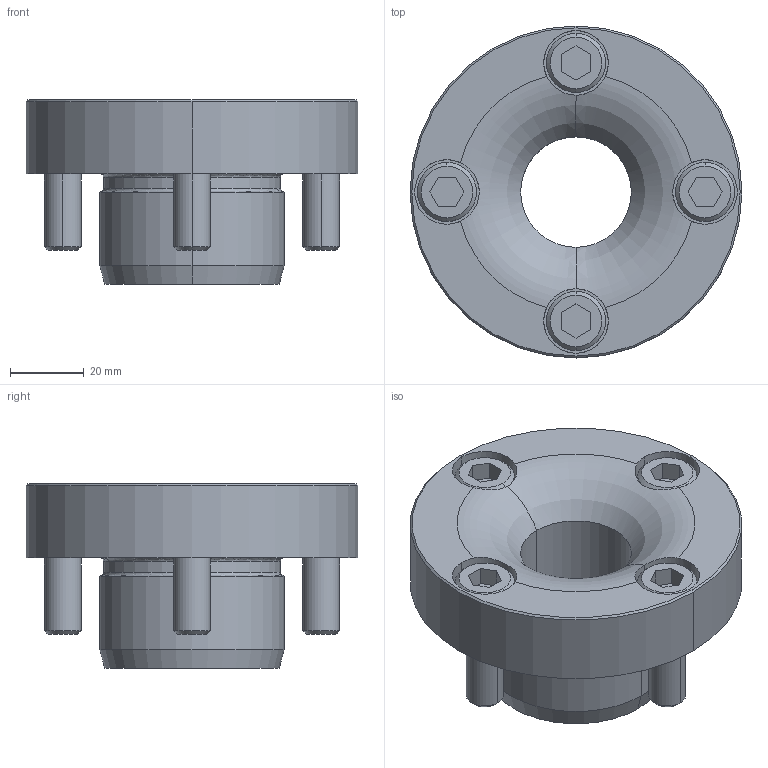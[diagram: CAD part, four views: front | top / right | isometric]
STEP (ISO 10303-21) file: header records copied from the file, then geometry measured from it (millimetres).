
FILE_DESCRIPTION((''),'2;1');
FILE_NAME('','2010-09-07T13:55:00+09:00',('misumi'),(''),'M/STEP i/f 1R2-14','CADmeister v5.1','');
FILE_SCHEMA(('AUTOMOTIVE_DESIGN'));
Length unit declared in the file: millimetre
Products named in the file (1): HGBF30
Bounding box: 90 x 90 x 50 mm (x, y, z)
Volume: 145686.2 mm3; surface area: 36204.7 mm2
Topology: 5 solids, 5 shells, 115 faces, 260 edges, 164 vertices
Faces by surface type: plane 47, cylinder 40, cone 20, revolution 8
Entity records: 3477 total; most frequent: CARTESIAN_POINT 616, DIRECTION 616, ORIENTED_EDGE 512, EDGE_CURVE 256, AXIS2_PLACEMENT_3D 238, VERTEX_POINT 160, EDGE_LOOP 134, LINE 132
